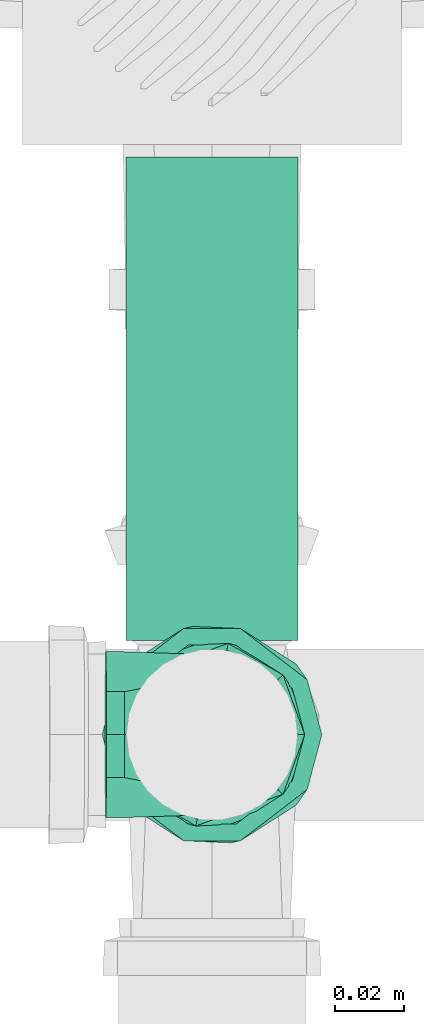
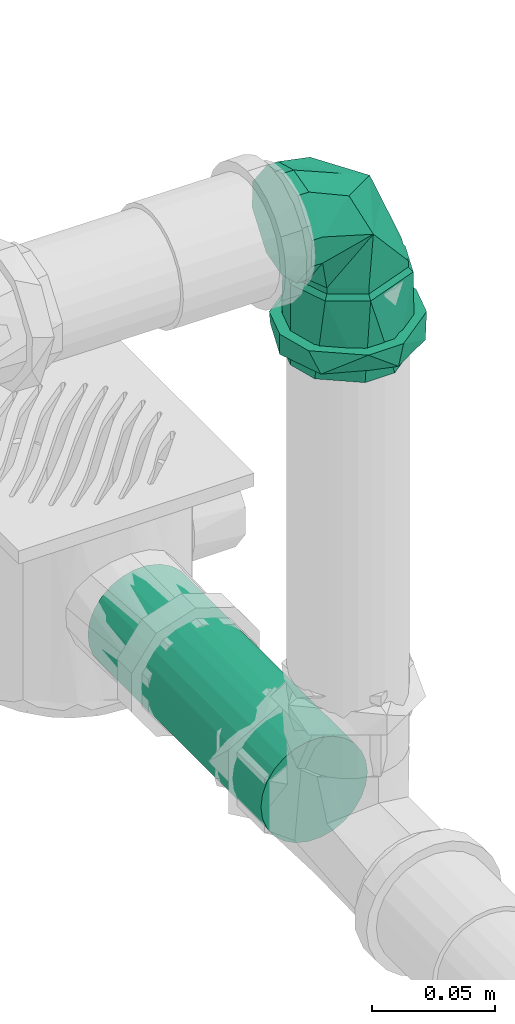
# One storey, part 165 of 589: 1 flow fitting, 1 flow segment.
"""IFC2X3 building model written with IfcOpenShell, lengths in millimetres."""

from ifc_helpers import new_model, entity, si_unit, converted_unit, derived_unit, direction, frame, frame_2d, origin, place, context, subcontext, project, spatial, circle, extrude, faceted_brep, source, transform, mapped, material, type_object, type_shapes, element, save


model = new_model("IFC2X3")

# Units and contexts
model_context = context("Model", 3, precision=0.01, world=origin(), true_north=direction((6.123031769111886e-17, 1.0)))
body_context = subcontext(model_context, "Body", "Model", "MODEL_VIEW")
ifc_project = project(units=[si_unit("LENGTHUNIT", "METRE", prefix="MILLI"), si_unit("AREAUNIT", "SQUARE_METRE"), si_unit("VOLUMEUNIT", "CUBIC_METRE"), converted_unit("PLANEANGLEUNIT", "DEGREE", entity("IfcRatioMeasure", 0.017453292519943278), si_unit("PLANEANGLEUNIT", "RADIAN"), dimensions=[0, 0, 0, 0, 0, 0, 0]), si_unit("MASSUNIT", "GRAM", prefix="KILO"), derived_unit("MASSDENSITYUNIT", [(si_unit("MASSUNIT", "GRAM", prefix="KILO"), 1), (si_unit("LENGTHUNIT", "METRE"), -3)]), derived_unit("IONCONCENTRATIONUNIT", [(si_unit("MASSUNIT", "GRAM", prefix="KILO"), 1), (si_unit("LENGTHUNIT", "METRE"), -3)]), derived_unit("MOMENTOFINERTIAUNIT", [(si_unit("LENGTHUNIT", "METRE"), 4)]), si_unit("TIMEUNIT", "SECOND"), si_unit("FREQUENCYUNIT", "HERTZ"), si_unit("THERMODYNAMICTEMPERATUREUNIT", "DEGREE_CELSIUS"), derived_unit("THERMALTRANSMITTANCEUNIT", [(si_unit("MASSUNIT", "GRAM", prefix="KILO"), 1), (si_unit("THERMODYNAMICTEMPERATUREUNIT", "KELVIN"), -1), (si_unit("TIMEUNIT", "SECOND"), -3)]), derived_unit("THERMALCONDUCTANCEUNIT", [(si_unit("MASSUNIT", "GRAM", prefix="KILO"), 1), (si_unit("THERMODYNAMICTEMPERATUREUNIT", "KELVIN"), -1), (si_unit("TIMEUNIT", "SECOND"), -3), (si_unit("LENGTHUNIT", "METRE"), 1)]), derived_unit("VOLUMETRICFLOWRATEUNIT", [(si_unit("LENGTHUNIT", "METRE"), 3), (si_unit("TIMEUNIT", "SECOND"), -1)]), derived_unit("MASSFLOWRATEUNIT", [(si_unit("MASSUNIT", "GRAM", prefix="KILO"), 1), (si_unit("TIMEUNIT", "SECOND"), -1)]), derived_unit("ROTATIONALFREQUENCYUNIT", [(si_unit("TIMEUNIT", "SECOND"), -1)]), si_unit("ELECTRICCURRENTUNIT", "AMPERE"), si_unit("ELECTRICVOLTAGEUNIT", "VOLT"), si_unit("POWERUNIT", "WATT"), si_unit("FORCEUNIT", "NEWTON", prefix="KILO"), si_unit("ILLUMINANCEUNIT", "LUX"), si_unit("LUMINOUSFLUXUNIT", "LUMEN"), si_unit("LUMINOUSINTENSITYUNIT", "CANDELA"), derived_unit("USERDEFINED", [(si_unit("MASSUNIT", "GRAM", prefix="KILO"), -1), (si_unit("LENGTHUNIT", "METRE"), -2), (si_unit("TIMEUNIT", "SECOND"), 3), (si_unit("LUMINOUSFLUXUNIT", "LUMEN"), 1)]), derived_unit("USERDEFINED", [(si_unit("MASSUNIT", "GRAM", prefix="KILO"), 1), (si_unit("TIMEUNIT", "SECOND"), -3), (si_unit("LENGTHUNIT", "METRE"), 3), (si_unit("ELECTRICCURRENTUNIT", "AMPERE"), -2)]), derived_unit("SOUNDPOWERUNIT", [(si_unit("MASSUNIT", "GRAM", prefix="KILO"), 1), (si_unit("TIMEUNIT", "SECOND"), -3), (si_unit("LENGTHUNIT", "METRE"), 2)]), derived_unit("SOUNDPRESSUREUNIT", [(si_unit("MASSUNIT", "GRAM", prefix="KILO"), 1), (si_unit("LENGTHUNIT", "METRE"), -1), (si_unit("TIMEUNIT", "SECOND"), -2)]), derived_unit("LINEARVELOCITYUNIT", [(si_unit("LENGTHUNIT", "METRE"), 1), (si_unit("TIMEUNIT", "SECOND"), -1)]), si_unit("PRESSUREUNIT", "PASCAL"), derived_unit("USERDEFINED", [(si_unit("MASSUNIT", "GRAM", prefix="KILO"), 1), (si_unit("LENGTHUNIT", "METRE"), -2), (si_unit("TIMEUNIT", "SECOND"), -2)]), derived_unit("LINEARFORCEUNIT", [(si_unit("MASSUNIT", "GRAM", prefix="KILO"), 1), (si_unit("TIMEUNIT", "SECOND"), -2)]), derived_unit("PLANARFORCEUNIT", [(si_unit("MASSUNIT", "GRAM", prefix="KILO"), 1), (si_unit("LENGTHUNIT", "METRE"), -1), (si_unit("TIMEUNIT", "SECOND"), -2)]), derived_unit("SPECIFICHEATCAPACITYUNIT", [(si_unit("THERMODYNAMICTEMPERATUREUNIT", "KELVIN"), -1), (si_unit("LENGTHUNIT", "METRE"), 2), (si_unit("TIMEUNIT", "SECOND"), -2)]), derived_unit("HEATINGVALUEUNIT", [(si_unit("LENGTHUNIT", "METRE"), 2), (si_unit("TIMEUNIT", "SECOND"), -2)]), derived_unit("VAPORPERMEABILITYUNIT", [(si_unit("LENGTHUNIT", "METRE"), -1), (si_unit("TIMEUNIT", "SECOND"), 1)]), derived_unit("DYNAMICVISCOSITYUNIT", [(si_unit("MASSUNIT", "GRAM", prefix="KILO"), 1), (si_unit("TIMEUNIT", "SECOND"), -1), (si_unit("LENGTHUNIT", "METRE"), -1)]), derived_unit("THERMALEXPANSIONCOEFFICIENTUNIT", [(si_unit("THERMODYNAMICTEMPERATUREUNIT", "KELVIN"), -1)]), derived_unit("MODULUSOFELASTICITYUNIT", [(si_unit("MASSUNIT", "GRAM", prefix="KILO"), 1), (si_unit("LENGTHUNIT", "METRE"), -1), (si_unit("TIMEUNIT", "SECOND"), -2)]), derived_unit("ISOTHERMALMOISTURECAPACITYUNIT", [(si_unit("LENGTHUNIT", "METRE"), 3), (si_unit("MASSUNIT", "GRAM", prefix="KILO"), -1)]), derived_unit("MOISTUREDIFFUSIVITYUNIT", [(si_unit("TIMEUNIT", "SECOND"), -1), (si_unit("LENGTHUNIT", "METRE"), 2)])], contexts=[model_context])

# Site, building, storey
site_placement = place(None, origin())
site = spatial("IfcSite", under=ifc_project, at=site_placement, Name="Default", CompositionType="ELEMENT")
building_placement = place(site_placement, origin())
building = spatial("IfcBuilding", under=site, at=building_placement, CompositionType="ELEMENT")
storey_placement = place(building_placement, frame((0.0, 0.0, 100.0)))
storey = spatial("IfcBuildingStorey", under=building, at=storey_placement, Name="TÉRREO", CompositionType="ELEMENT", Elevation=100.0)

# Flow segment
pipe_segment_type = type_object("IfcPipeSegmentType", Name="Tipos de tubos:PVC Esgoto Série Normal", PredefinedType="NOTDEFINED")
flow_segment_placement = place(storey_placement, origin())
element("IfcFlowSegment", 1, at=flow_segment_placement, inside=storey, type_object=pipe_segment_type, Name="Tipos de tubos:PVC Esgoto Série Normal", ObjectType="Tipos de tubos:PVC Esgoto Série Normal", context=body_context, shape_type="SweptSolid", body=[
    extrude(circle(Radius=25.0, at=frame_2d((0.0, -1.6919798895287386e-14), x_axis=(1.0, 0.0))), frame((12044.978158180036, -6639.295187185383, -227.71062423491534), z_axis=(0.0, 1.0, 0.0), x_axis=(-1.0, 0.0, 0.0)), (0.0, 0.0, 1.0), 140.8029141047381),
])

# Flow fitting
ifc_material = material(Name="PVC Série Normal")
pipe_fitting_type = type_object("IfcPipeFittingType", Name="PVC Esgoto_Joelho 45_90_Rodrigo MEP:a. Série Normal", PredefinedType="NOTDEFINED", material=ifc_material)
shared_shape = source(origin(), body_context, "Body", "Brep", [
    faceted_brep([(-6.212752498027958, 25.804714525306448, 24.14814565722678), (-21.392152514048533, 25.95650852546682, 12.500000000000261), (-24.741349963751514, 25.990000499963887, 0.0), (-21.392152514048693, 25.956508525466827, -12.499999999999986), (-6.21275249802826, 25.804714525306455, -24.1481456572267), (6.727552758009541, 25.675311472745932, -24.14814565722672), (21.906952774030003, 25.52351747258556, -12.500000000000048), (25.256150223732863, 25.490025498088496, 0.0), (21.906952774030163, 25.52351747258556, 12.499999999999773), (6.7275527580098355, 25.675311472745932, 24.148145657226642), (25.308147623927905, 30.689765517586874, 0.0), (21.958950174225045, 30.72325749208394, -12.500000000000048), (6.779550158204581, 30.87505149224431, -24.14814565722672), (-6.160755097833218, 31.004454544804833, -24.1481456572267), (-21.34015511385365, 31.156248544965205, -12.499999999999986), (-24.689352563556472, 31.18974051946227, 0.0), (-21.340155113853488, 31.1562485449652, 12.500000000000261), (-6.160755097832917, 31.00445454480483, 24.14814565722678), (6.779550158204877, 30.87505149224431, 24.148145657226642), (21.958950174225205, 30.72325749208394, 12.499999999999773)], [[[0, 1, 2, 3, 4, 5, 6, 7, 8, 9]], [[10, 11, 12, 13, 14, 15, 16, 17, 18, 19]], [[7, 10, 19, 8]], [[8, 19, 18, 9]], [[18, 17, 0, 9]], [[0, 17, 16, 1]], [[1, 16, 15, 2]], [[2, 15, 14, 3]], [[3, 14, 13, 4]], [[13, 12, 5, 4]], [[5, 12, 11, 6]], [[6, 11, 10, 7]]]),
    faceted_brep([(-70.94129996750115, -6.988114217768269, -26.07999730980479), (-70.94129996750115, -6.47047612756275, -24.14814565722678), (-70.94129996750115, 6.4704761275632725, -24.148145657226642), (-70.94129996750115, -23.382685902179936, -13.499999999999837), (-70.94129996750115, 6.988114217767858, -26.0799973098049), (-70.94129996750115, -21.650635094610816, -12.500000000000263), (-70.94129996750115, -25.0, 0.0), (-70.94129996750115, -27.0, 0.0), (-70.94129996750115, -21.650635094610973, 12.499999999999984), (-70.94129996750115, -23.382685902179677, 13.500000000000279), (-70.94129996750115, -6.470476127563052, 24.1481456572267), (-70.94129996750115, -6.98811421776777, 26.079997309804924), (-70.94129996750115, 6.470476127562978, 24.14814565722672), (-70.94129996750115, 6.988114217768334, 26.07999730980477), (-70.94129996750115, 21.650635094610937, 12.500000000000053), (-70.94129996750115, 23.38268590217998, 13.499999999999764), (-70.94129996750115, 27.0, 0.0), (-70.94129996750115, 25.0, 0.0), (-70.94129996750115, 23.382685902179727, -13.500000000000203), (-70.94129996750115, 21.6506350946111, -12.499999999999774), (-30.94129996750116, 21.650635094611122, -12.499999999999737), (-30.94129996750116, 25.0, 0.0), (-30.94129996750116, 6.4704761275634, -24.148145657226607), (-30.94129996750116, -6.470476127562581, -24.148145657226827), (-30.94129996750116, -21.650635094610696, -12.500000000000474), (-30.94129996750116, -25.0, 0.0), (-30.94129996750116, -21.65063509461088, 12.500000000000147), (-30.94129996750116, -6.470476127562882, 24.14814565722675), (-30.94129996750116, 6.470476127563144, 24.148145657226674), (-30.94129996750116, 21.650635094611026, 12.499999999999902), (-30.94129996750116, 27.0, 0.0), (-30.941299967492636, 20.682232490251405, 17.356418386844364), (-30.94129996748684, 4.685536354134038, 26.59033187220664), (-30.94129996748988, -20.686585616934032, 17.35122979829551), (-30.94129996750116, -27.0, 0.0), (-30.941299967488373, -8.000524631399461, 21.970780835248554), (-30.94129996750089, -20.686585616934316, -17.35122979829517), (-30.9412999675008, -4.6922062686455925, -26.589155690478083), (-30.94129996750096, 20.682232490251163, -17.356418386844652), (-30.94129996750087, 7.995013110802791, -21.97278703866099), (-28.74129996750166, -4.338459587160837, -24.62067765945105), (-28.741299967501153, 25.0, 0.0), (-28.741299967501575, 19.154245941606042, -16.065953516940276), (-28.741299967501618, 7.407893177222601, -20.34331558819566), (-28.741299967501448, -19.15021526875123, -16.070757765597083), (-28.741299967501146, -25.0, 0.0), (-28.741299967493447, -19.150215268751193, 16.07075776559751), (-28.741299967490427, -7.402789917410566, 20.345173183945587), (-28.74129996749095, 19.15424594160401, 16.065953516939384), (-28.741299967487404, 4.344635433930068, 24.619588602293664), (-25.741299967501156, 25.0, 0.0), (-25.741299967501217, 19.151286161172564, 16.069481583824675), (-25.741299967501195, 4.341396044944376, 24.62016003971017), (-25.741299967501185, -7.404832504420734, 20.344954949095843), (-25.741299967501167, -19.15106105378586, 16.069749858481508), (-25.741299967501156, -25.0, 0.0), (-25.741299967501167, -19.15106105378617, -16.069749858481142), (-25.741299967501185, -4.341051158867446, -24.62022085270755), (-25.741299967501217, 19.15128616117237, -16.069481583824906), (-25.7412999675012, 7.405117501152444, -20.344851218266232), (-6.212752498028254, 25.80471452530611, -24.1481456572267), (-21.39215251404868, 25.95650852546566, -12.499999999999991), (-24.74134996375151, 25.990000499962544, 0.0), (-21.3921525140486, 25.956508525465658, 12.500000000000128), (-6.2127524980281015, 25.80471452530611, 24.14814565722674), (6.7275527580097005, 25.67531147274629, 24.148145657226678), (21.906952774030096, 25.52351747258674, 12.499999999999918), (25.256150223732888, 25.490025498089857, 0.0), (21.90695277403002, 25.523517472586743, -12.500000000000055), (6.727552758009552, 25.67531147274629, -24.14814565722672), (-0.83580225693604, 1.5246716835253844, 23.354962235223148), (-3.2027279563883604, -15.730161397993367, 0.0), (10.140389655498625, -10.242300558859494, 0.0), (16.135012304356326, 8.632944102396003, 15.848254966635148), (-25.03773742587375, 25.289366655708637, 0.0), (15.761400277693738, 3.0452732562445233, 0.0), (16.135011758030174, 8.632944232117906, -15.848255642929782), (-0.8751695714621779, 1.433288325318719, -23.341145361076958)], [[[0, 1, 2]], [[1, 0, 3]], [[2, 4, 0]], [[3, 5, 1]], [[3, 6, 5]], [[6, 3, 7]], [[8, 6, 7]], [[8, 7, 9]], [[9, 10, 8]], [[9, 11, 10]], [[10, 11, 12]], [[13, 12, 11]], [[13, 14, 12]], [[14, 13, 15]], [[16, 14, 15]], [[17, 14, 16]], [[18, 17, 16]], [[18, 19, 17]], [[19, 18, 4]], [[4, 2, 19]], [[20, 21, 17, 19]], [[22, 20, 19, 2]], [[2, 1, 23, 22]], [[24, 23, 1, 5]], [[25, 24, 5, 6]], [[26, 25, 6, 8]], [[27, 26, 8, 10]], [[10, 12, 28, 27]], [[29, 28, 12, 14]], [[21, 29, 14, 17]], [[16, 15, 30]], [[15, 31, 30]], [[31, 15, 13]], [[31, 13, 32]], [[33, 11, 9]], [[34, 9, 7]], [[11, 33, 35, 32]], [[33, 9, 34]], [[11, 32, 13]], [[7, 3, 34]], [[3, 36, 34]], [[36, 3, 0]], [[36, 0, 37]], [[38, 4, 18]], [[30, 18, 16]], [[4, 38, 39, 37]], [[38, 18, 30]], [[4, 37, 0]], [[28, 29, 21, 20, 22, 23, 24, 25, 26, 27]], [[39, 40, 37]], [[41, 42, 30]], [[30, 42, 38]], [[38, 43, 39]], [[44, 45, 36]], [[38, 42, 43]], [[36, 37, 44]], [[34, 36, 45]], [[40, 39, 43]], [[44, 37, 40]], [[45, 46, 33]], [[33, 34, 45]], [[46, 35, 33]], [[46, 47, 35]], [[47, 32, 35]], [[48, 41, 30]], [[48, 31, 49]], [[31, 48, 30]], [[32, 47, 49]], [[49, 31, 32]], [[41, 48, 50]], [[48, 51, 50]], [[51, 48, 49]], [[51, 49, 52]], [[52, 47, 53]], [[46, 54, 53]], [[46, 45, 54]], [[49, 47, 52]], [[54, 45, 55]], [[47, 46, 53]], [[45, 44, 56]], [[45, 56, 55]], [[56, 44, 57]], [[58, 59, 43]], [[44, 40, 57]], [[40, 59, 57]], [[58, 43, 42]], [[42, 50, 58]], [[50, 42, 41]], [[59, 40, 43]], [[60, 61, 62, 63, 64, 65, 66, 67, 68, 69]], [[52, 70, 51]], [[54, 71, 70]], [[70, 52, 53, 54]], [[72, 73, 70]], [[50, 63, 74]], [[51, 63, 50]], [[54, 55, 71]], [[72, 70, 71]], [[75, 67, 66]], [[65, 70, 73]], [[73, 75, 66]], [[74, 63, 62]], [[73, 66, 65]], [[63, 51, 64]], [[70, 64, 51]], [[73, 72, 75]], [[65, 64, 70]], [[72, 76, 75]], [[71, 55, 56]], [[77, 58, 60]], [[77, 57, 59, 58]], [[77, 71, 56]], [[56, 57, 77]], [[77, 69, 76]], [[58, 50, 61]], [[74, 62, 61]], [[71, 77, 72]], [[61, 60, 58]], [[68, 75, 76]], [[68, 67, 75]], [[72, 77, 76]], [[76, 69, 68]], [[60, 69, 77]], [[61, 50, 74]]]),
    faceted_brep([(-53.94129996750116, 6.9881142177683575, -26.07999730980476), (-53.94129996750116, -6.988114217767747, -26.079997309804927), (-53.94129996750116, -8.282209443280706, -30.909626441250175), (-53.94129996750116, 8.28220944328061, -30.9096264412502), (-53.94129996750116, 23.38268590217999, -13.499999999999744), (-53.94129996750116, -27.712812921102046, -16.0), (-53.94129996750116, -23.38268590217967, -13.500000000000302), (-53.94129996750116, -27.0, 0.0), (-53.94129996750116, -32.0, 0.0), (-53.94129996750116, -23.382685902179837, 13.500000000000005), (-53.94129996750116, -27.712812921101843, 16.0), (-53.94129996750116, -6.988114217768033, 26.07999730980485), (-53.94129996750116, -8.28220944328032, 30.909626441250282), (-53.94129996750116, 6.988114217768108, 26.07999730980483), (-53.94129996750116, 8.282209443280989, 30.909626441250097), (-53.94129996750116, 23.382685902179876, 13.499999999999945), (-53.94129996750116, 27.712812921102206, 16.0), (-53.94129996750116, 32.0, 0.0), (-53.94129996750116, 27.0, 0.0), (-53.94129996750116, 27.712812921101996, -16.0), (-63.94129996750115, 27.0, 0.0), (-65.24129996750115, 27.0, 0.0), (-63.94129996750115, 25.191342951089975, -6.750000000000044), (-63.94129996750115, 23.38268590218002, -13.499999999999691), (-63.94129996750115, 19.284042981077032, -16.644999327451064), (-63.94129996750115, 15.185400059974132, -19.789998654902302), (-63.94129996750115, 11.086757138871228, -22.934997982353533), (-63.94129996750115, 6.988114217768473, -26.07999730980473), (-63.94129996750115, 0.0, -26.079997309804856), (-63.94129996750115, -6.988114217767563, -26.079997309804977), (-63.94129996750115, -11.086757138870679, -22.934997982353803), (-63.94129996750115, -15.185400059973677, -19.789998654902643), (-63.94129996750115, -19.284042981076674, -16.644999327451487), (-63.94129996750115, -23.382685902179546, -13.50000000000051), (-63.94129996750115, -25.191342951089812, -6.750000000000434), (-65.24129996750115, -27.0, 0.0), (-63.94129996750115, -27.0, 0.0), (-63.94129996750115, -25.19134295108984, 6.750000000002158), (-63.94129996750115, -23.382685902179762, 13.500000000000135), (-63.94129996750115, -19.284042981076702, 16.64499932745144), (-63.94129996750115, -15.185400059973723, 19.7899986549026), (-63.94129996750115, -11.086757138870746, 22.934997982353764), (-63.94129996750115, -6.988114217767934, 26.079997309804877), (-63.94129996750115, 0.0, 26.079997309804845), (-63.94129996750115, 6.988114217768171, 26.079997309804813), (-63.94129996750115, 11.086757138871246, 22.93499798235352), (-63.94129996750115, 15.185400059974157, 19.789998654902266), (-63.94129996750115, 19.284042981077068, 16.644999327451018), (-63.94129996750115, 23.382685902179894, 13.499999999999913), (-63.94129996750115, 25.19134295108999, 6.74999999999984), (-63.94129996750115, 32.0, 0.0), (-63.94129996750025, 24.512275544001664, 20.570569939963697), (-63.94129996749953, -5.561133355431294, 31.51307341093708), (-63.94129996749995, -24.51743480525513, 20.56442050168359), (-63.94129996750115, -32.0, 0.0), (-63.9412999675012, -24.51743480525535, -20.564420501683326), (-63.941299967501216, 5.553228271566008, -31.514467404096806), (-63.94129996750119, 24.512275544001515, -20.570569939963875), (-65.2412999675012, -23.84329280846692, -8.675614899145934), (-65.24129996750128, -20.686585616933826, -17.351229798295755), (-65.24129996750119, 23.841116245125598, -8.678209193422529), (-65.24129996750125, 20.6822324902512, -17.356418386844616), (-65.24129996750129, -12.689395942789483, -21.970192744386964), (-65.24129996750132, -4.692206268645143, -26.589155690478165), (-65.24129996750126, 14.338622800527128, -19.664602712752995), (-65.24129996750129, 1.6514034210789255, -24.280971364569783), (-65.24129996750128, 7.995013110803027, -21.97278703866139), (-65.24129996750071, 23.84111624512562, 8.678209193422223), (-65.24129996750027, 20.68223249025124, 17.35641838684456), (-65.24129996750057, -23.843292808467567, 8.675614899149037), (-65.24129996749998, -20.68658561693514, 17.351229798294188), (-65.24129996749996, 12.683884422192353, 21.973375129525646), (-65.24129996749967, 4.685536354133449, 26.590331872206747), (-65.2412999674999, -14.343555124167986, 19.66100531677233), (-65.24129996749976, -1.6574941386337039, 24.280556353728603), (-65.24129996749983, -8.000524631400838, 21.97078083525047)], [[[0, 1, 2]], [[2, 3, 0]], [[4, 0, 3]], [[5, 2, 1]], [[1, 6, 5]], [[6, 7, 5]], [[8, 5, 7]], [[8, 7, 9]], [[10, 8, 9]], [[9, 11, 10]], [[11, 12, 10]], [[13, 12, 11]], [[12, 13, 14]], [[13, 15, 14]], [[16, 14, 15]], [[16, 15, 17]], [[17, 15, 18]], [[18, 4, 19]], [[17, 18, 19]], [[3, 19, 4]], [[4, 18, 20, 21, 22, 23]], [[0, 4, 23, 24, 25, 26, 27]], [[0, 27, 28, 29, 1]], [[6, 1, 29, 30, 31, 32, 33]], [[7, 6, 33, 34, 35, 36]], [[9, 7, 36, 35, 37, 38]], [[11, 9, 38, 39, 40, 41, 42]], [[11, 42, 43, 44, 13]], [[15, 13, 44, 45, 46, 47, 48]], [[18, 15, 48, 49, 21, 20]], [[50, 51, 16]], [[50, 16, 17]], [[16, 51, 14]], [[51, 52, 14]], [[12, 52, 53]], [[10, 53, 54]], [[53, 10, 12]], [[10, 54, 8]], [[52, 12, 14]], [[54, 55, 5]], [[54, 5, 8]], [[5, 55, 2]], [[55, 56, 2]], [[3, 56, 57]], [[19, 57, 50]], [[57, 19, 3]], [[19, 50, 17]], [[56, 3, 2]], [[58, 33, 59]], [[23, 60, 61]], [[32, 31, 59, 33]], [[30, 29, 62, 31]], [[24, 23, 61, 25]], [[29, 28, 63]], [[26, 25, 64]], [[65, 63, 28]], [[31, 62, 59]], [[63, 62, 29]], [[60, 22, 21]], [[34, 58, 35]], [[66, 26, 64]], [[28, 27, 65]], [[27, 66, 65]], [[27, 26, 66]], [[64, 25, 61]], [[34, 33, 58]], [[60, 23, 22]], [[67, 48, 68]], [[38, 69, 70]], [[47, 46, 68, 48]], [[45, 44, 71, 46]], [[39, 38, 70, 40]], [[44, 43, 72]], [[41, 40, 73]], [[74, 72, 43]], [[46, 71, 68]], [[72, 71, 44]], [[69, 37, 35]], [[49, 67, 21]], [[75, 41, 73]], [[43, 42, 74]], [[42, 75, 74]], [[42, 41, 75]], [[73, 40, 70]], [[49, 48, 67]], [[69, 38, 37]], [[54, 35, 58, 59, 55]], [[55, 59, 62, 63]], [[55, 63, 56]], [[57, 61, 60, 21, 50]], [[57, 56, 61]], [[56, 63, 65, 66, 64, 61]], [[50, 21, 67, 68, 51]], [[51, 68, 71, 72]], [[51, 72, 52]], [[53, 70, 69, 35, 54]], [[53, 52, 70]], [[52, 72, 74, 75, 73, 70]]]),
])
type_shapes(pipe_fitting_type, [shared_shape])
flow_fitting_placement = place(storey_placement, frame((12044.978158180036, -6666.695187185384, 80.0), z_axis=(0.0, -1.0, 0.0), x_axis=(0.0, 0.0, 1.0)))
element("IfcFlowFitting", 2, at=flow_fitting_placement, inside=storey, type_object=pipe_fitting_type, material=ifc_material, Name="PVC Esgoto_Joelho 45_90_Rodrigo MEP:a. Série Normal", ObjectType="PVC Esgoto_Joelho 45_90_Rodrigo MEP:a. Série Normal", context=body_context, shape_type="MappedRepresentation", body=[
    mapped(shared_shape, transform((0.0, 0.0, 0.0), scale=1.0)),
])

save(model, "model.ifc")
